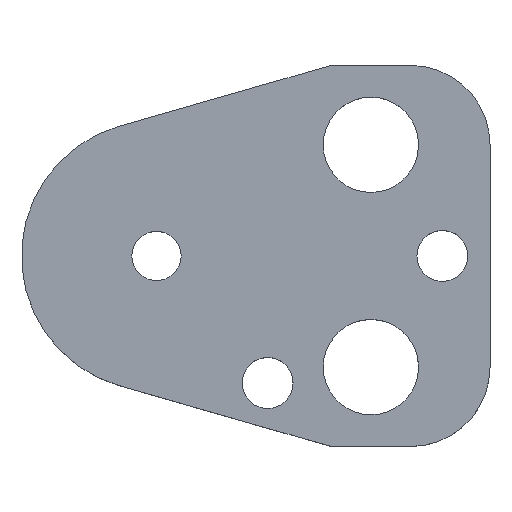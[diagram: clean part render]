
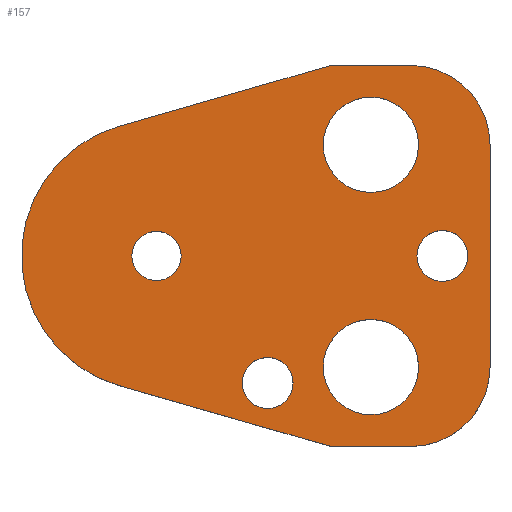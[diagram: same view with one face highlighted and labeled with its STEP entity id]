
A CAD part, top view. The second image highlights one B-rep face of the part: STEP entity #157.
In plain terms, the highlighted planar face has unit normal (0, 0, 1).
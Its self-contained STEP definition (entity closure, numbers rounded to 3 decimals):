
#103=FACE_BOUND('',#207,.T.);
#104=FACE_BOUND('',#208,.T.);
#105=FACE_BOUND('',#209,.T.);
#106=FACE_BOUND('',#210,.T.);
#107=FACE_BOUND('',#211,.T.);
#108=FACE_BOUND('',#212,.T.);
#122=CIRCLE('',#480,10.);
#124=CIRCLE('',#484,10.);
#127=CIRCLE('',#490,17.);
#138=CIRCLE('',#503,3.2);
#139=CIRCLE('',#504,3.2);
#140=CIRCLE('',#505,6.);
#141=CIRCLE('',#506,6.);
#142=CIRCLE('',#507,6.);
#143=CIRCLE('',#508,6.);
#144=CIRCLE('',#509,3.2);
#145=CIRCLE('',#510,3.2);
#146=CIRCLE('',#511,3.1);
#147=CIRCLE('',#512,3.1);
#157=ADVANCED_FACE('',(#103,#104,#105,#106,#107,#108),#174,.T.);
#174=PLANE('',#513);
#207=EDGE_LOOP('',(#273,#274,#275,#276,#277,#278,#279,#280));
#208=EDGE_LOOP('',(#281,#282));
#209=EDGE_LOOP('',(#283,#284));
#210=EDGE_LOOP('',(#285,#286));
#211=EDGE_LOOP('',(#287,#288));
#212=EDGE_LOOP('',(#289,#290));
#273=ORIENTED_EDGE('',*,*,#368,.T.);
#274=ORIENTED_EDGE('',*,*,#372,.T.);
#275=ORIENTED_EDGE('',*,*,#375,.T.);
#276=ORIENTED_EDGE('',*,*,#378,.T.);
#277=ORIENTED_EDGE('',*,*,#381,.T.);
#278=ORIENTED_EDGE('',*,*,#384,.T.);
#279=ORIENTED_EDGE('',*,*,#387,.T.);
#280=ORIENTED_EDGE('',*,*,#390,.T.);
#281=ORIENTED_EDGE('',*,*,#401,.T.);
#282=ORIENTED_EDGE('',*,*,#402,.T.);
#283=ORIENTED_EDGE('',*,*,#403,.T.);
#284=ORIENTED_EDGE('',*,*,#404,.T.);
#285=ORIENTED_EDGE('',*,*,#405,.T.);
#286=ORIENTED_EDGE('',*,*,#406,.T.);
#287=ORIENTED_EDGE('',*,*,#407,.T.);
#288=ORIENTED_EDGE('',*,*,#408,.T.);
#289=ORIENTED_EDGE('',*,*,#409,.T.);
#290=ORIENTED_EDGE('',*,*,#410,.T.);
#332=VERTEX_POINT('',#649);
#333=VERTEX_POINT('',#651);
#336=VERTEX_POINT('',#658);
#338=VERTEX_POINT('',#664);
#340=VERTEX_POINT('',#670);
#342=VERTEX_POINT('',#676);
#344=VERTEX_POINT('',#682);
#346=VERTEX_POINT('',#688);
#357=VERTEX_POINT('',#717);
#358=VERTEX_POINT('',#718);
#359=VERTEX_POINT('',#721);
#360=VERTEX_POINT('',#722);
#361=VERTEX_POINT('',#725);
#362=VERTEX_POINT('',#726);
#363=VERTEX_POINT('',#729);
#364=VERTEX_POINT('',#730);
#365=VERTEX_POINT('',#733);
#366=VERTEX_POINT('',#734);
#368=EDGE_CURVE('',#333,#332,#422,.T.);
#372=EDGE_CURVE('',#332,#336,#426,.T.);
#375=EDGE_CURVE('',#336,#338,#122,.T.);
#378=EDGE_CURVE('',#338,#340,#430,.T.);
#381=EDGE_CURVE('',#340,#342,#124,.T.);
#384=EDGE_CURVE('',#342,#344,#434,.T.);
#387=EDGE_CURVE('',#344,#346,#437,.T.);
#390=EDGE_CURVE('',#346,#333,#127,.T.);
#401=EDGE_CURVE('',#357,#358,#138,.T.);
#402=EDGE_CURVE('',#358,#357,#139,.T.);
#403=EDGE_CURVE('',#359,#360,#140,.T.);
#404=EDGE_CURVE('',#360,#359,#141,.T.);
#405=EDGE_CURVE('',#361,#362,#142,.T.);
#406=EDGE_CURVE('',#362,#361,#143,.T.);
#407=EDGE_CURVE('',#363,#364,#144,.T.);
#408=EDGE_CURVE('',#364,#363,#145,.T.);
#409=EDGE_CURVE('',#365,#366,#146,.T.);
#410=EDGE_CURVE('',#366,#365,#147,.T.);
#422=LINE('',#650,#450);
#426=LINE('',#659,#454);
#430=LINE('',#671,#458);
#434=LINE('',#683,#462);
#437=LINE('',#689,#465);
#450=VECTOR('',#527,1.);
#454=VECTOR('',#533,1.);
#458=VECTOR('',#545,1.);
#462=VECTOR('',#557,1.);
#465=VECTOR('',#562,1.);
#480=AXIS2_PLACEMENT_3D('',#665,#538,#539);
#484=AXIS2_PLACEMENT_3D('',#677,#550,#551);
#490=AXIS2_PLACEMENT_3D('',#693,#568,#569);
#503=AXIS2_PLACEMENT_3D('',#716,#594,#595);
#504=AXIS2_PLACEMENT_3D('',#719,#596,#597);
#505=AXIS2_PLACEMENT_3D('',#720,#598,#599);
#506=AXIS2_PLACEMENT_3D('',#723,#600,#601);
#507=AXIS2_PLACEMENT_3D('',#724,#602,#603);
#508=AXIS2_PLACEMENT_3D('',#727,#604,#605);
#509=AXIS2_PLACEMENT_3D('',#728,#606,#607);
#510=AXIS2_PLACEMENT_3D('',#731,#608,#609);
#511=AXIS2_PLACEMENT_3D('',#732,#610,#611);
#512=AXIS2_PLACEMENT_3D('',#735,#612,#613);
#513=AXIS2_PLACEMENT_3D('',#736,#614,#615);
#527=DIRECTION('',(0.961,-0.276,0.));
#533=DIRECTION('',(1.,0.,0.));
#538=DIRECTION('',(0.,0.,1.));
#539=DIRECTION('',(-0.707,0.707,0.));
#545=DIRECTION('',(0.,1.,0.));
#550=DIRECTION('',(0.,0.,1.));
#551=DIRECTION('',(-0.707,-0.707,0.));
#557=DIRECTION('',(-1.,0.,0.));
#562=DIRECTION('',(-0.961,-0.276,0.));
#568=DIRECTION('',(0.,0.,1.));
#569=DIRECTION('',(1.,0.,0.));
#594=DIRECTION('',(0.,0.,-1.));
#595=DIRECTION('',(-1.,0.,0.));
#596=DIRECTION('',(0.,0.,-1.));
#597=DIRECTION('',(1.,0.,0.));
#598=DIRECTION('',(0.,0.,-1.));
#599=DIRECTION('',(-1.,0.,0.));
#600=DIRECTION('',(0.,0.,-1.));
#601=DIRECTION('',(1.,0.,0.));
#602=DIRECTION('',(0.,0.,-1.));
#603=DIRECTION('',(-1.,0.,0.));
#604=DIRECTION('',(0.,0.,-1.));
#605=DIRECTION('',(1.,0.,0.));
#606=DIRECTION('',(0.,0.,-1.));
#607=DIRECTION('',(-1.,0.,0.));
#608=DIRECTION('',(0.,0.,-1.));
#609=DIRECTION('',(1.,0.,0.));
#610=DIRECTION('',(0.,0.,-1.));
#611=DIRECTION('',(-1.,0.,0.));
#612=DIRECTION('',(0.,0.,-1.));
#613=DIRECTION('',(1.,0.,0.));
#614=DIRECTION('',(0.,0.,1.));
#615=DIRECTION('',(0.961,-0.276,0.));
#649=CARTESIAN_POINT('',(22.,-24.,8.));
#650=CARTESIAN_POINT('',(22.,-24.,8.));
#651=CARTESIAN_POINT('',(-4.69,-16.34,8.));
#658=CARTESIAN_POINT('',(32.,-24.,8.));
#659=CARTESIAN_POINT('',(22.,-24.,8.));
#664=CARTESIAN_POINT('',(42.,-14.,8.));
#665=CARTESIAN_POINT('',(32.,-14.,8.));
#670=CARTESIAN_POINT('',(42.,14.,8.));
#671=CARTESIAN_POINT('',(42.,14.,8.));
#676=CARTESIAN_POINT('',(32.,24.,8.));
#677=CARTESIAN_POINT('',(32.,14.,8.));
#682=CARTESIAN_POINT('',(22.,24.,8.));
#683=CARTESIAN_POINT('',(22.,24.,8.));
#688=CARTESIAN_POINT('',(-4.69,16.34,8.));
#689=CARTESIAN_POINT('',(22.,24.,8.));
#693=CARTESIAN_POINT('',(0.,0.,8.));
#716=CARTESIAN_POINT('',(36.,0.,8.));
#717=CARTESIAN_POINT('',(36.,3.2,8.));
#718=CARTESIAN_POINT('',(36.,-3.2,8.));
#719=CARTESIAN_POINT('',(36.,0.,8.));
#720=CARTESIAN_POINT('',(27.,14.,8.));
#721=CARTESIAN_POINT('',(27.,20.,8.));
#722=CARTESIAN_POINT('',(27.,8.,8.));
#723=CARTESIAN_POINT('',(27.,14.,8.));
#724=CARTESIAN_POINT('',(27.,-14.,8.));
#725=CARTESIAN_POINT('',(27.,-8.,8.));
#726=CARTESIAN_POINT('',(27.,-20.,8.));
#727=CARTESIAN_POINT('',(27.,-14.,8.));
#728=CARTESIAN_POINT('',(14.,-16.,8.));
#729=CARTESIAN_POINT('',(14.,-12.8,8.));
#730=CARTESIAN_POINT('',(14.,-19.2,8.));
#731=CARTESIAN_POINT('',(14.,-16.,8.));
#732=CARTESIAN_POINT('',(0.,0.,8.));
#733=CARTESIAN_POINT('',(0.,3.1,8.));
#734=CARTESIAN_POINT('',(0.,-3.1,8.));
#735=CARTESIAN_POINT('',(0.,0.,8.));
#736=CARTESIAN_POINT('',(-4.69,-16.34,8.));
